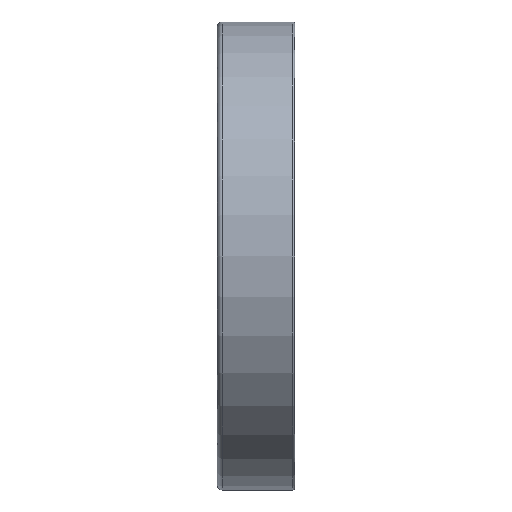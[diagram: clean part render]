
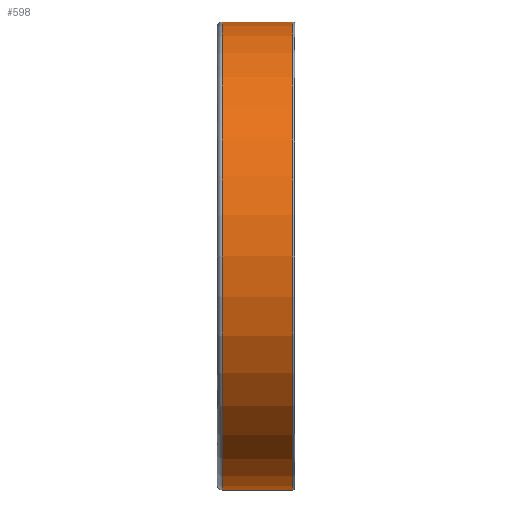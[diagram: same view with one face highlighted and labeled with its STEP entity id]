
A CAD part, front view. The second image highlights one B-rep face of the part: STEP entity #598.
In plain terms, the highlighted cylindrical face has radius 72.5 mm (diameter 145 mm), a full revolution.
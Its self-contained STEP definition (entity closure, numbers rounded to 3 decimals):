
#176=CYLINDRICAL_SURFACE('',#946,72.5);
#288=EDGE_LOOP('',(#412));
#289=EDGE_LOOP('',(#413));
#412=ORIENTED_EDGE('',*,*,#482,.F.);
#413=ORIENTED_EDGE('',*,*,#480,.T.);
#480=EDGE_CURVE('',#867,#867,#500,.T.);
#482=EDGE_CURVE('',#869,#869,#502,.T.);
#500=CIRCLE('',#942,72.5);
#502=CIRCLE('',#945,72.5);
#598=ADVANCED_FACE('',(#757,#758),#176,.T.);
#757=FACE_BOUND('',#288,.T.);
#758=FACE_BOUND('',#289,.T.);
#867=VERTEX_POINT('',#2010);
#869=VERTEX_POINT('',#2015);
#942=AXIS2_PLACEMENT_3D('',#2009,#1079,#1080);
#945=AXIS2_PLACEMENT_3D('',#2014,#1085,#1086);
#946=AXIS2_PLACEMENT_3D('',#2016,#1087,#1088);
#1079=DIRECTION('',(1.,0.,0.));
#1080=DIRECTION('',(0.,0.,-1.));
#1085=DIRECTION('',(1.,0.,0.));
#1086=DIRECTION('',(0.,0.,-1.));
#1087=DIRECTION('',(1.,0.,0.));
#1088=DIRECTION('',(0.,0.,-1.));
#2009=CARTESIAN_POINT('',(-10.5,0.,0.));
#2010=CARTESIAN_POINT('',(-10.5,0.,-72.5));
#2014=CARTESIAN_POINT('',(11.4,0.,0.));
#2015=CARTESIAN_POINT('',(11.4,0.,-72.5));
#2016=CARTESIAN_POINT('',(-10.5,0.,0.));
